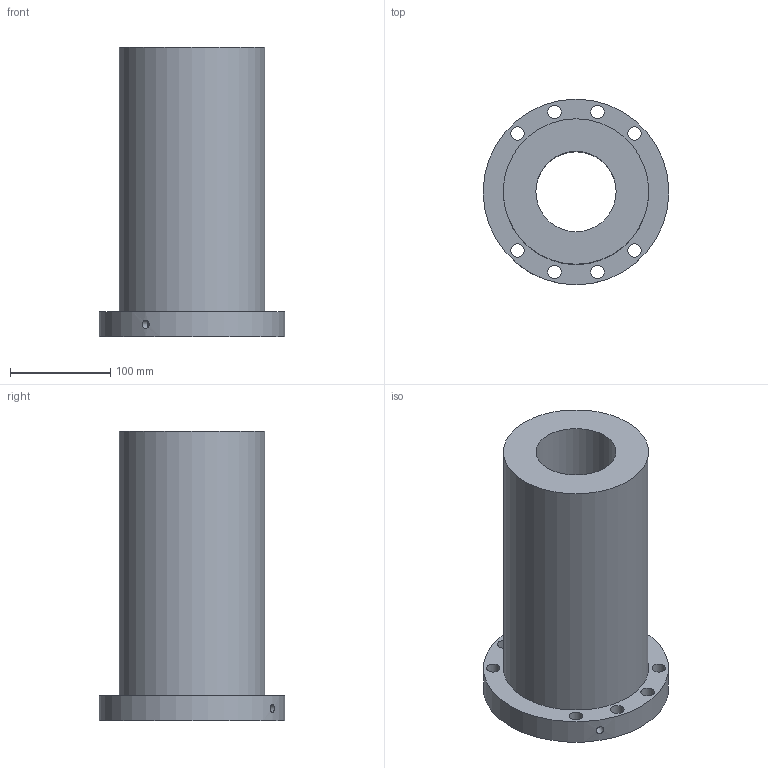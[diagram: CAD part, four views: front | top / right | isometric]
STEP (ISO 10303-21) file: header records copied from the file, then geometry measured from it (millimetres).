
FILE_DESCRIPTION(/* description */ (''),/* implementation_level */ '2;1');
FILE_NAME(/* name */ '80-20K5_9525',/* time_stamp */ '2007-10-15T12:53:52+08:00',/* author */ (''),/* organization */ (''),/* preprocessor_version */ 'ST-DEVELOPER v11',/* originating_system */ 'UGS - NX 5.0',/* authorisation */ '');
FILE_SCHEMA (('CONFIG_CONTROL_DESIGN'));
Length unit declared in the file: millimetre
Products named in the file (1): 80-20K5_9525
Bounding box: 185 x 185 x 289 mm (x, y, z)
Volume: 3548434.6 mm3; surface area: 258319 mm2
Topology: 1 solids, 1 shells, 17 faces, 40 edges, 27 vertices
Faces by surface type: cylinder 13, plane 4
Full cylindrical faces by diameter (mm): 6 x1, 8 x1, 13.5 x8, 80 x1, 145 x1, 185 x1
Entity records: 668 total; most frequent: CARTESIAN_POINT 184, DIRECTION 84, FACE_BOUND 52, EDGE_LOOP 52, ORIENTED_EDGE 52, AXIS2_PLACEMENT_3D 42, VERTEX_POINT 26, EDGE_CURVE 26
